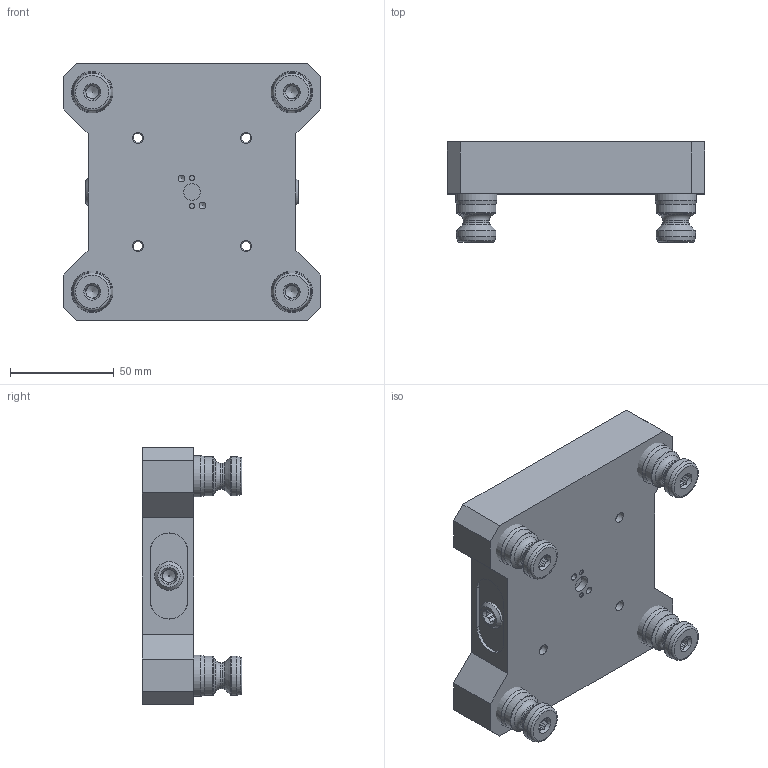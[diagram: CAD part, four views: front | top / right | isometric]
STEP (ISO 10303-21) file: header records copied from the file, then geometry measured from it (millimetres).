
FILE_DESCRIPTION (( 'STEP AP214' ), '1' );
FILE_NAME ('RL52A- A96_WEBSITE.STEP', '2025-08-11T12:00:41', ( '' ), ( '' ), 'SwSTEP 2.0', 'SolidWorks 2025', '' );
FILE_SCHEMA (( 'AUTOMOTIVE_DESIGN' ));
Length unit declared in the file: inch
Products named in the file (13): D_RL52-1A96A_WEBSITE; 9452K168-Base-O-Ring_WEBSITE; 9750K720_PLASTIC ROUND PLUG_WEBSITE_9750K72; R_PS20F_WEBSITE_HARD TURN; D_RL52-2R_WEBSITE; D_M10-1.5MM X 20MM_WEBSITE; 9452K77-Truck-O-Ring_WEBSITE; R_PS20F_WEBSITE; D_RL52-2L_WEBSITE; RL52A- A96_WEBSITE; D_92981A144_ALLOY STEEL SHOULDER SCREW_WEBSITE_92981A144; D_RL52-3_WEBSITE; D_HW22X16.DB_WEBSITE
Assembly tree (25 placements, depth 3):
  9750K720_PLASTIC ROUND PLUG_WEBSITE_9750K72
  RL52A- A96_WEBSITE
    D_RL52-1A96A_WEBSITE
    D_RL52-2L_WEBSITE
    D_RL52-2R_WEBSITE
    D_RL52-3_WEBSITE
    D_HW22X16.DB_WEBSITE  x4
    D_92981A144_ALLOY STEEL SHOULDER SCREW_WEBSITE_92981A144  x2
    9452K168-Base-O-Ring_WEBSITE  x4
    9452K77-Truck-O-Ring_WEBSITE  x2
    R_PS20F_WEBSITE  x4
      R_PS20F_WEBSITE_HARD TURN
    D_M10-1.5MM X 20MM_WEBSITE  x4
Bounding box: 124 x 48.08 x 124 mm (x, y, z)
Volume: 331543.2 mm3; surface area: 92895.9 mm2
Topology: 26 solids, 26 shells, 562 faces, 1238 edges, 765 vertices
Faces by surface type: plane 301, cylinder 131, cone 90, torus 38, bspline 2
Full cylindrical faces by diameter (mm): 0.254 x2, 2.5 x2, 3 x2, 3.3 x2, 4 x2, 4.089 x2, 5.182 x4, 6 x2, 6.147 x6, 7.01 x2, 8.026 x1, 8.5 x4, 8.89 x1, 9.144 x4, 9.525 x4, 10 x8, 11 x4, 12 x2, 12.497 x4, 13.754 x2, 15.24 x2, 15.291 x4, 15.875 x1, 15.992 x4, 16 x4, 16.002 x4, 16.02 x4, 16.03 x4, 18 x4, 19.012 x8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
Entity records: 11141 total; most frequent: CARTESIAN_POINT 2822, DIRECTION 1474, ORIENTED_EDGE 1162, AXIS2_PLACEMENT_3D 601, EDGE_CURVE 581, EDGE_LOOP 502, VERTEX_POINT 421, FACE_OUTER_BOUND 405
